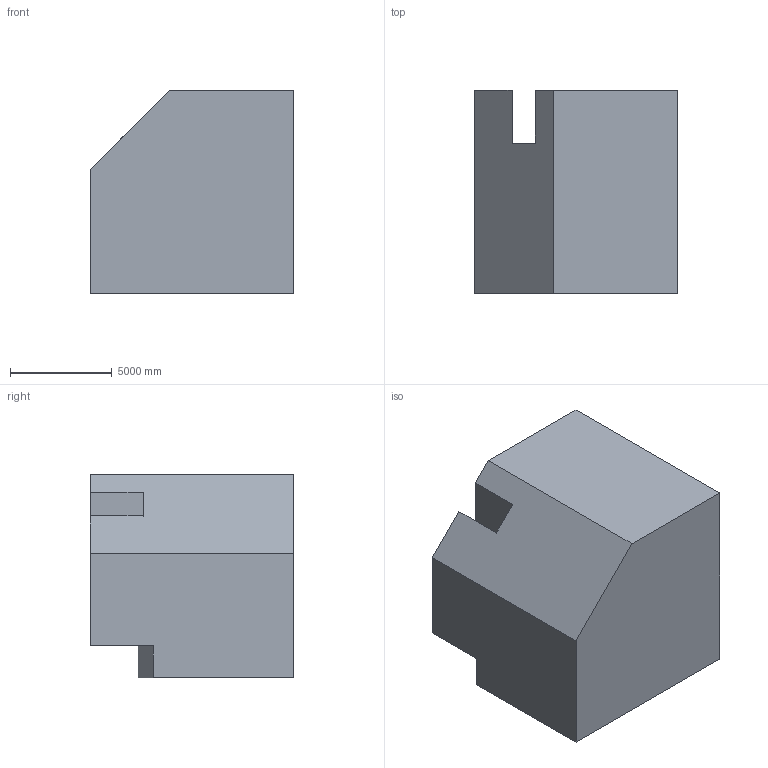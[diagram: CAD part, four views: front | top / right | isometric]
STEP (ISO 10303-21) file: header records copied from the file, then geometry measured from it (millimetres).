
FILE_DESCRIPTION (( 'STEP AP203' ), '1' );
FILE_NAME ('304.STEP', '2022-07-28T14:16:24', ( 'user' ), ( '' ), 'SwSTEP 2.0', 'SolidWorks 2021', '' );
FILE_SCHEMA (( 'CONFIG_CONTROL_DESIGN' ));
Length unit declared in the file: centimetre
Products named in the file (1): 304
Bounding box: 10000 x 10000 x 10000 mm (x, y, z)
Volume: 821865323368.4 mm3; surface area: 633776217.6 mm2
Topology: 1 solids, 1 shells, 22 faces, 60 edges, 40 vertices
Faces by surface type: plane 22
Entity records: 761 total; most frequent: CARTESIAN_POINT 123, ORIENTED_EDGE 120, DIRECTION 106, VECTOR 60, LINE 60, EDGE_CURVE 60, VERTEX_POINT 40, AXIS2_PLACEMENT_3D 23
